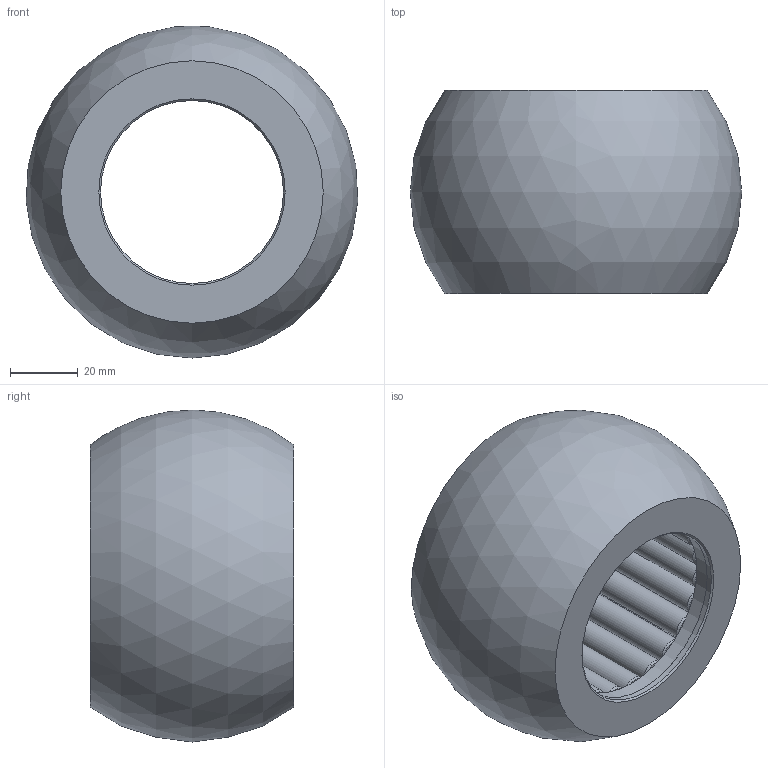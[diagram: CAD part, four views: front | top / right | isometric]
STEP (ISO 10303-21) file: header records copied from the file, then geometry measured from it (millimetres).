
FILE_DESCRIPTION(('STEP AP214'),'1');
FILE_NAME('C:/Projets/Serie 15.xx.xx/15.xx.54.step','2011-11-14T14:44:14',(' '),(' '),'Spatial InterOp 3D',' ',' ');
FILE_SCHEMA(('automotive_design'));
Length unit declared in the file: metre
Products named in the file (27): rotule; frette; @879; @887
Bounding box: 97.86 x 60 x 98 mm (x, y, z)
Volume: 235487.3 mm3; surface area: 103559.1 mm2
Topology: 27 solids, 27 shells, 325 faces, 615 edges, 394 vertices
Faces by surface type: cylinder 126, plane 104, cone 94, sphere 1
Full cylindrical faces by diameter (mm): 2.8 x46, 3.5 x46, 8 x23, 54 x2, 55 x2, 69 x2, 70 x3, 76 x2
Entity records: 9940 total; most frequent: DIRECTION 1400, CARTESIAN_POINT 1048, AXIS2_PLACEMENT_3D 700, EDGE_LOOP 696, ORIENTED_EDGE 696, FACE_OUTER_BOUND 452, EDGE_CURVE 348, VERTEX_POINT 348
